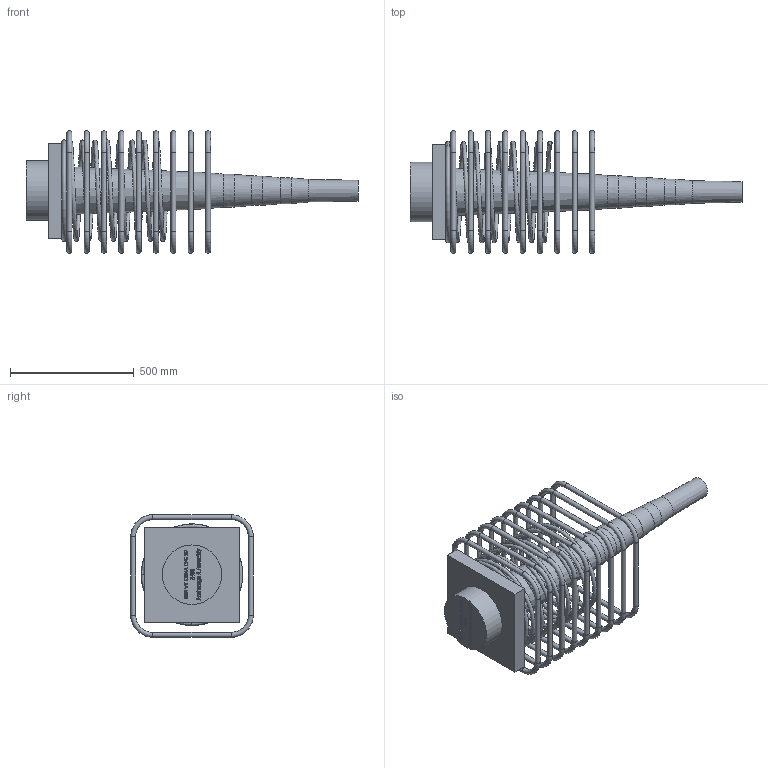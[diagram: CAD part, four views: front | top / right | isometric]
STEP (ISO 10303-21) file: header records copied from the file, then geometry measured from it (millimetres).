
FILE_DESCRIPTION(/* description */ (''),/* implementation_level */ '2;1');
FILE_NAME(/* name */ 'Z:\04 Publications\05 Give-out\BBR\6_3D_Models\BBR VT CONA CMI\BBR VT CONA CMI SP\02406\BBR VT CONA CMI SP 2406_Anchorage A Assembly_CS-34,28.stp',/* time_stamp */ '2017-05-09T09:49:05+02:00',/* author */ ('IP'),/* organization */ (''),/* preprocessor_version */ 'ST-DEVELOPER v16.1',/* originating_system */ 'Autodesk Inventor 2016',/* authorisation */ '');
FILE_SCHEMA (('AUTOMOTIVE_DESIGN { 1 0 10303 214 3 1 1 }'));
Length unit declared in the file: millimetre
Products named in the file (1): BBR VT CONA CMI SP 2406_Anchorage A Assembly_CS-34,28
Bounding box: 1340.3 x 495 x 495 mm (x, y, z)
Volume: 38609400.5 mm3; surface area: 2501529.2 mm2
Topology: 11 solids, 11 shells, 698 faces, 1837 edges, 1198 vertices
Faces by surface type: plane 321, bspline 293, torus 41, cylinder 37, cone 6
Full cylindrical faces by diameter (mm): 20 x36, 240 x1
Entity records: 26958 total; most frequent: CARTESIAN_POINT 11275, ORIENTED_EDGE 3506, DIRECTION 2066, EDGE_CURVE 1750, VERTEX_POINT 1195, LINE 1072, VECTOR 1072, EDGE_LOOP 842
